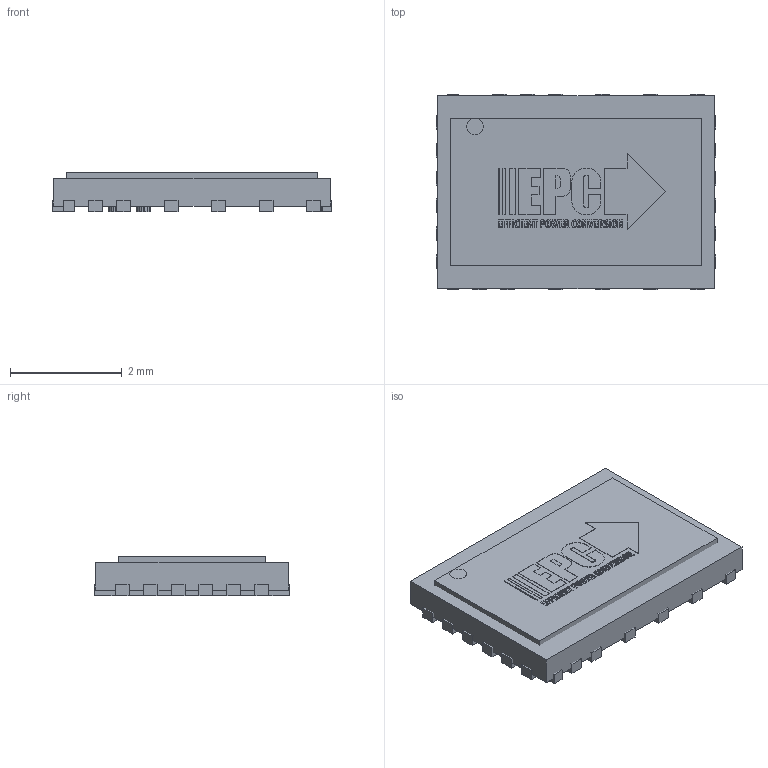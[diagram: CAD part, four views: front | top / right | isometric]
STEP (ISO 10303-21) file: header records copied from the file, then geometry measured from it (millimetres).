
FILE_DESCRIPTION(/* description */ ('FreeCAD Model'),/* implementation_level */ '2;1');
FILE_NAME(/* name */ 'METUPowerLab_Transistors_GaNFETs_PowerStages_14-PowerWFQFN-EPC23101.step',/* time_stamp */ '2025-07-31T17:54:17+03:00',/* author */ (''),/* organization */ (''),/* preprocessor_version */ 'ST-DEVELOPER v20.1',/* originating_system */ 'Autodesk Translation Framework v14.10.0.0',/* authorisation */ '');
FILE_SCHEMA (('AUTOMOTIVE_DESIGN { 1 0 10303 214 3 1 1 }'));
Length unit declared in the file: millimetre
Products named in the file (62): D0629; EPClogo3mm; Extrude024; Extrude; Extrude001; Extrude002; Extrude003; Extrude004; Extrude005; Extrude006; Extrude007; Extrude008; Extrude009; Extrude010; Extrude011; Extrude012; Extrude013; Extrude014; Extrude015; Extrude016; Extrude017; Extrude018; Extrude019; Extrude020; Extrude021; Extrude022; Extrude023; Green008; Green001; Green002; Green003; Green004; Green005; Green006; Green007; 7785182000; Extruded; 7787810144; Cylinder; 7785184720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
Assembly tree (68 placements, depth 4):
  D0629
    EPClogo3mm
      Extrude024
        Extrude
        Extrude001
        Extrude002
        Extrude003
        Extrude004
        Extrude005
        Extrude006
        Extrude007
        Extrude008
        Extrude009
        Extrude010
        Extrude011
        Extrude012
        Extrude013
        Extrude014
        Extrude015
        Extrude016
        Extrude017
        Extrude018
        Extrude019
        Extrude020
        Extrude021
        Extrude022
        Extrude023
      Green008
        Green001
        Green002
        Green003
        Green004
        Green005
        Green006
        Green007
    7785182000
      Extruded
    7787810144
      Cylinder
    7785184720
      Extruded001
    7785184720001
      Extruded001
    7785184720002
      Extruded001
    7785173600
      Extruded004
    7785183360
      Extruded005
    7785183360001
      Extruded005
    7785181600
      Extruded007
    7785181600001
      Extruded007
    7785181600002
      Extruded007
    7785181600003
      Extruded007
    7785179680
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Bounding box: 5 x 3.5 x 0.7 mm (x, y, z)
Surface area: 97.4 mm2
Topology: 48 solids, 48 shells, 744 faces, 1944 edges, 1296 vertices
Faces by surface type: plane 639, bspline 104, cylinder 1
Full cylindrical faces by diameter (mm): 0.3 x1
Entity records: 22139 total; most frequent: CARTESIAN_POINT 4932, ORIENTED_EDGE 3420, DIRECTION 2900, EDGE_CURVE 1710, LINE 1500, VECTOR 1500, VERTEX_POINT 1140, AXIS2_PLACEMENT_3D 700
